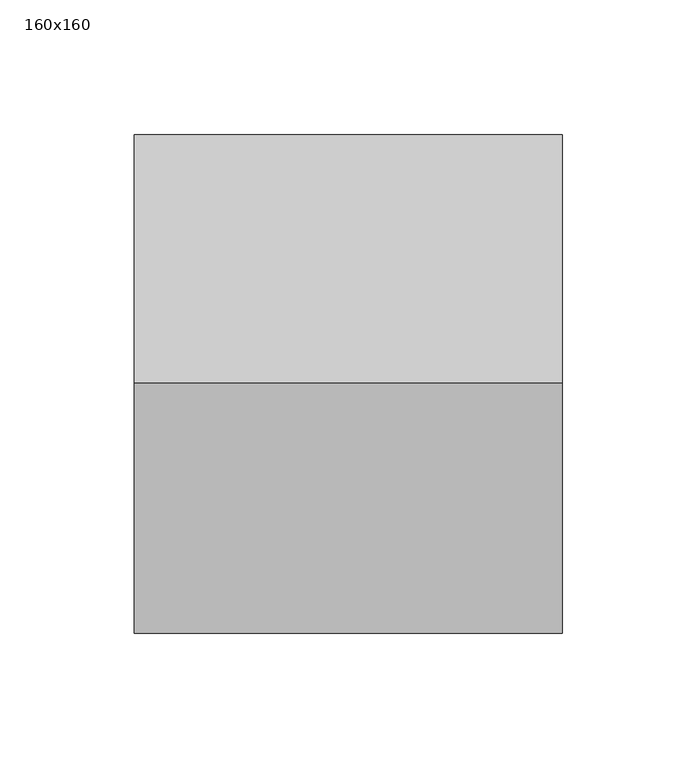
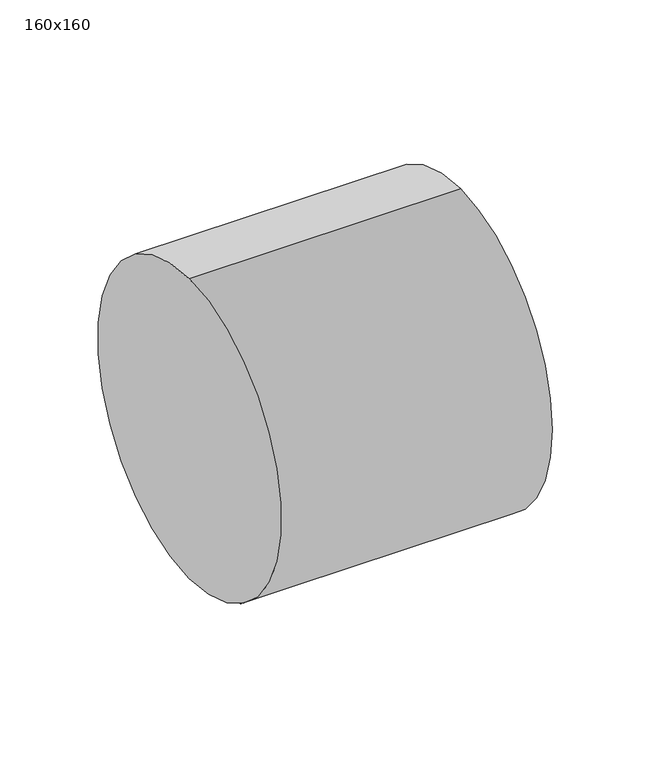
"""IFC4 building model written with IfcOpenShell, lengths in millimetres: pipe fitting geometry, Pipelife - Studnia PRO - Łącznik 7.5° : 160x160."""

from ifc_helpers import new_model, si_unit, point, frame, origin, origin_2d, place, context, project, spatial, circle_curve, trimmed, segment, composite_curve, outline, extrude, source, transform, mapped, element, save


def pipe_fitting_160x160_850765b0(model_context):
    return source(origin(), model_context, "Body", "SweptSolid", [
        extrude(outline(composite_curve([segment(trimmed(circle_curve(origin_2d(), 81.5), [point((0.0, -81.5))], [point((0.0, 81.5))], False, "CARTESIAN"), True, "CONTINUOUS"), segment(trimmed(circle_curve(origin_2d(), 81.5), [point((0.0, 81.5))], [point((0.0, -81.5))], False, "CARTESIAN"), True, "CONTINUOUS")], self_intersect=False)), frame((69.538053, 0.0, 0.0), z_axis=(1.0, 0.0, 0.0), x_axis=(0.0, 1.0, 0.0)), (0.0, 0.0, 1.0), 10.0),
        extrude(outline(composite_curve([segment(trimmed(circle_curve(origin_2d(), 93.0), [point((0.0, -93.0))], [point((0.0, 93.0))], False, "CARTESIAN"), True, "CONTINUOUS"), segment(trimmed(circle_curve(origin_2d(), 93.0), [point((0.0, 93.0))], [point((0.0, -93.0))], False, "CARTESIAN"), True, "CONTINUOUS")], self_intersect=False)), frame((-79.5, 0.0, 0.0), z_axis=(1.0, 0.0, 0.0), x_axis=(0.0, 1.0, 0.0)), (0.0, 0.0, 1.0), 159.0),
    ])


if __name__ == "__main__":
    model = new_model("IFC4")
    model_context = context("Model", 3, world=origin())
    ifc_project = project(units=[si_unit("LENGTHUNIT", "METRE", prefix="MILLI")], contexts=[model_context])
    site = spatial("IfcSite", under=ifc_project)
    building = spatial("IfcBuilding", under=site)
    placement = place(None, origin())
    pipe_fitting_160x160_shape = pipe_fitting_160x160_850765b0(model_context)
    element("IfcPipeFitting", 1, ObjectType="Pipelife - Studnia PRO - Łącznik 7.5° : 160x160", at=placement, inside=building, context=model_context, shape_type="MappedRepresentation", body=[
        mapped(pipe_fitting_160x160_shape, transform((0.0, 0.0, 0.0), x_axis=(1.0, 0.0, 0.0), y_axis=(0.0, 1.0, 0.0), z_axis=(0.0, 0.0, 1.0))),
    ])
    save(model, "model.ifc")
